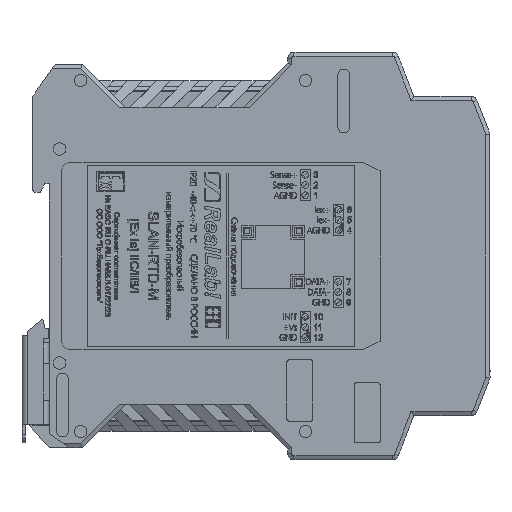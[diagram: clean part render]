
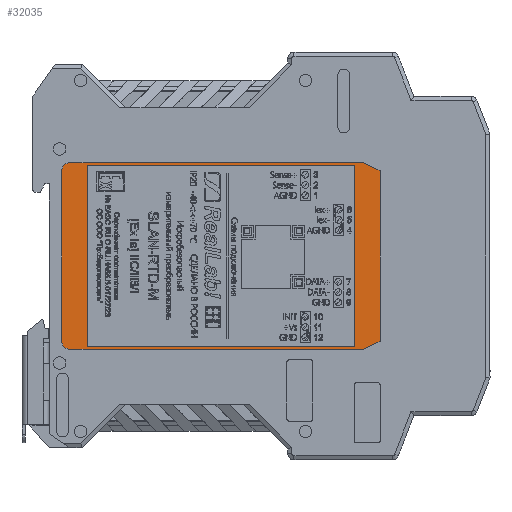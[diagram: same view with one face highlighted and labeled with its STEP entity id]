
A CAD part, front view. The second image highlights one B-rep face of the part: STEP entity #32035.
In plain terms, the highlighted planar face has unit normal (0, -1, 0).
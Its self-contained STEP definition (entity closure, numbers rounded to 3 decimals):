
#32035=ADVANCED_FACE('',(#92315,#92317),#92319,.T.);
#92315=FACE_BOUND('',#92316,.T.);
#92316=EDGE_LOOP('',(#148647,#148648,#148649,#148650,#148651,#148652,#148653,#148654));
#92317=FACE_BOUND('',#92318,.T.);
#92318=EDGE_LOOP('',(#148655,#148656,#148657,#148658));
#92319=PLANE('',#92320);
#92320=AXIS2_PLACEMENT_3D('',#92321,#92322,#92323);
#92321=CARTESIAN_POINT('',(105.362,0.2,-1.512));
#92322=DIRECTION('',(0.,-1.,0.));
#92323=DIRECTION('',(0.,0.,-1.));
#148647=ORIENTED_EDGE('',*,*,#190395,.T.);
#148648=ORIENTED_EDGE('',*,*,#190396,.T.);
#148649=ORIENTED_EDGE('',*,*,#190397,.T.);
#148650=ORIENTED_EDGE('',*,*,#190398,.T.);
#148651=ORIENTED_EDGE('',*,*,#190399,.T.);
#148652=ORIENTED_EDGE('',*,*,#190400,.F.);
#148653=ORIENTED_EDGE('',*,*,#190401,.T.);
#148654=ORIENTED_EDGE('',*,*,#190402,.F.);
#148655=ORIENTED_EDGE('',*,*,#183424,.T.);
#148656=ORIENTED_EDGE('',*,*,#183431,.T.);
#148657=ORIENTED_EDGE('',*,*,#183429,.T.);
#148658=ORIENTED_EDGE('',*,*,#183427,.T.);
#183424=EDGE_CURVE('',#209089,#209090,#209091,.T.);
#183427=EDGE_CURVE('',#209094,#209089,#209095,.T.);
#183429=EDGE_CURVE('',#209097,#209094,#209098,.T.);
#183431=EDGE_CURVE('',#209090,#209097,#209100,.T.);
#190395=EDGE_CURVE('',#219572,#219573,#219574,.T.);
#190396=EDGE_CURVE('',#219573,#219575,#219576,.T.);
#190397=EDGE_CURVE('',#219575,#219577,#219578,.T.);
#190398=EDGE_CURVE('',#219577,#219579,#219580,.T.);
#190399=EDGE_CURVE('',#219579,#219581,#219582,.T.);
#190400=EDGE_CURVE('',#219583,#219581,#219584,.T.);
#190401=EDGE_CURVE('',#219583,#219585,#219586,.T.);
#190402=EDGE_CURVE('',#219572,#219585,#219587,.T.);
#209089=VERTEX_POINT('',#254483);
#209090=VERTEX_POINT('',#254484);
#209091=LINE('',#254485,#254486);
#209094=VERTEX_POINT('',#254494);
#209095=LINE('',#254495,#254496);
#209097=VERTEX_POINT('',#254501);
#209098=LINE('',#254502,#254503);
#209100=LINE('',#254508,#254509);
#219572=VERTEX_POINT('',#281211);
#219573=VERTEX_POINT('',#281212);
#219574=LINE('',#281213,#281214);
#219575=VERTEX_POINT('',#281216);
#219576=LINE('',#281217,#281218);
#219577=VERTEX_POINT('',#281220);
#219578=LINE('',#281221,#281222);
#219579=VERTEX_POINT('',#281224);
#219580=LINE('',#281225,#281226);
#219581=VERTEX_POINT('',#281228);
#219582=LINE('',#281229,#281230);
#219583=VERTEX_POINT('',#281232);
#219584=CIRCLE('',#281233,2.);
#219585=VERTEX_POINT('',#281237);
#219586=LINE('',#281238,#281239);
#219587=CIRCLE('',#281241,2.);
#254483=CARTESIAN_POINT('',(75.662,0.2,20.488));
#254484=CARTESIAN_POINT('',(75.662,0.2,-23.512));
#254485=CARTESIAN_POINT('',(75.662,0.2,20.488));
#254486=VECTOR('',#254487,1.);
#254487=DIRECTION('',(0.,0.,-1.));
#254494=CARTESIAN_POINT('',(10.662,0.2,20.488));
#254495=CARTESIAN_POINT('',(10.662,0.2,20.488));
#254496=VECTOR('',#254497,1.);
#254497=DIRECTION('',(1.,0.,0.));
#254501=CARTESIAN_POINT('',(10.662,0.2,-23.512));
#254502=CARTESIAN_POINT('',(10.662,0.2,-23.512));
#254503=VECTOR('',#254504,1.);
#254504=DIRECTION('',(0.,0.,1.));
#254508=CARTESIAN_POINT('',(75.662,0.2,-23.512));
#254509=VECTOR('',#254510,1.);
#254510=DIRECTION('',(-1.,0.,0.));
#281211=CARTESIAN_POINT('',(6.512,0.2,-24.162));
#281212=CARTESIAN_POINT('',(77.812,0.2,-24.162));
#281213=CARTESIAN_POINT('',(6.512,0.2,-24.162));
#281214=VECTOR('',#281215,1.);
#281215=DIRECTION('',(1.,0.,0.));
#281216=CARTESIAN_POINT('',(81.812,0.2,-22.162));
#281217=CARTESIAN_POINT('',(77.812,0.2,-24.162));
#281218=VECTOR('',#281219,1.);
#281219=DIRECTION('',(0.894,0.,0.447));
#281220=CARTESIAN_POINT('',(81.812,0.2,19.138));
#281221=CARTESIAN_POINT('',(81.812,0.2,-22.162));
#281222=VECTOR('',#281223,1.);
#281223=DIRECTION('',(0.,0.,1.));
#281224=CARTESIAN_POINT('',(77.812,0.2,21.138));
#281225=CARTESIAN_POINT('',(81.812,0.2,19.138));
#281226=VECTOR('',#281227,1.);
#281227=DIRECTION('',(-0.894,0.,0.447));
#281228=CARTESIAN_POINT('',(6.512,0.2,21.138));
#281229=CARTESIAN_POINT('',(77.812,0.2,21.138));
#281230=VECTOR('',#281231,1.);
#281231=DIRECTION('',(-1.,0.,0.));
#281232=CARTESIAN_POINT('',(4.512,0.2,19.138));
#281233=AXIS2_PLACEMENT_3D('',#281234,#281235,#281236);
#281234=CARTESIAN_POINT('',(6.512,0.2,19.138));
#281235=DIRECTION('',(0.,1.,0.));
#281236=DIRECTION('',(-1.,0.,0.));
#281237=CARTESIAN_POINT('',(4.512,0.2,-22.162));
#281238=CARTESIAN_POINT('',(4.512,0.2,19.138));
#281239=VECTOR('',#281240,1.);
#281240=DIRECTION('',(0.,0.,-1.));
#281241=AXIS2_PLACEMENT_3D('',#281242,#281243,#281244);
#281242=CARTESIAN_POINT('',(6.512,0.2,-22.162));
#281243=DIRECTION('',(0.,1.,0.));
#281244=DIRECTION('',(0.,0.,-1.));
